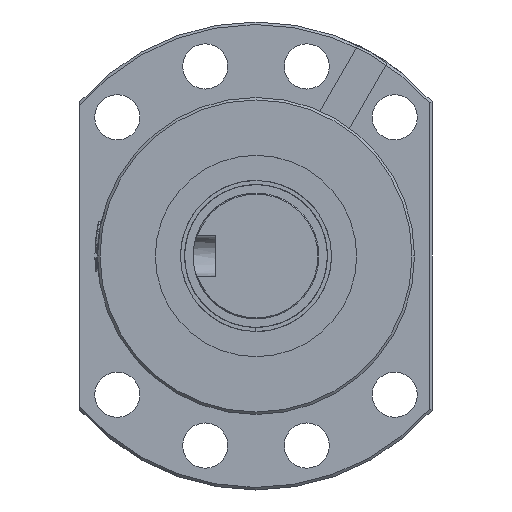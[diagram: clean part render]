
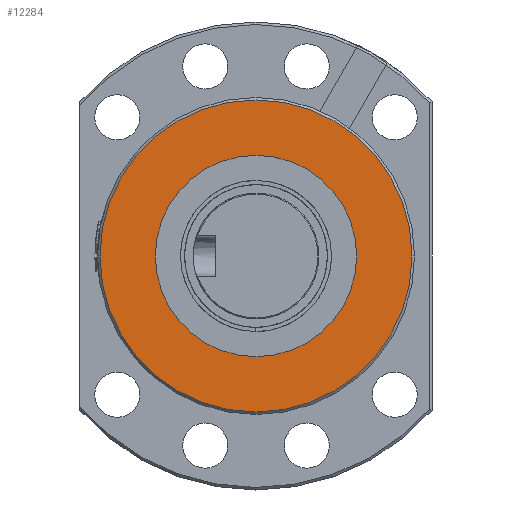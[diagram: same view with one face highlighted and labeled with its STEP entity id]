
A CAD part, left-side view. The second image highlights one B-rep face of the part: STEP entity #12284.
In plain terms, the highlighted planar face has unit normal (-1, 0, 0) as drawn and (1, 0, 0) by its records, which use the part's own axes.
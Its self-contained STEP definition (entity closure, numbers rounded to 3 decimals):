
#1056 = ORIENTED_EDGE ( 'NONE', *, *, #4572, .T. ) ;
#2905 = CIRCLE ( 'NONE', #29359, 20. ) ;
#3261 = ORIENTED_EDGE ( 'NONE', *, *, #27896, .T. ) ;
#3599 = EDGE_CURVE ( 'NONE', #23247, #20291, #30186, .T. ) ;
#4572 = EDGE_CURVE ( 'NONE', #7403, #6596, #9538, .T. ) ;
#4626 = CIRCLE ( 'NONE', #10507, 31. ) ;
#5779 = DIRECTION ( 'NONE',  ( -1., 0., 0. ) ) ;
#5901 = EDGE_LOOP ( 'NONE', ( #25796, #3261 ) ) ;
#6249 = DIRECTION ( 'NONE',  ( 0., 0., 1. ) ) ;
#6334 = AXIS2_PLACEMENT_3D ( 'NONE', #8115, #5779, #15905 ) ;
#6596 = VERTEX_POINT ( 'NONE', #7231 ) ;
#7231 = CARTESIAN_POINT ( 'NONE',  ( -56.764, 42.86, -9.637 ) ) ;
#7403 = VERTEX_POINT ( 'NONE', #21788 ) ;
#8115 = CARTESIAN_POINT ( 'NONE',  ( -56.764, 42.86, 21.363 ) ) ;
#9000 = AXIS2_PLACEMENT_3D ( 'NONE', #9234, #19328, #6249 ) ;
#9234 = CARTESIAN_POINT ( 'NONE',  ( -56.764, 42.86, -10.137 ) ) ;
#9538 = CIRCLE ( 'NONE', #23304, 31. ) ;
#10507 = AXIS2_PLACEMENT_3D ( 'NONE', #15712, #25790, #26122 ) ;
#12284 = ADVANCED_FACE ( 'NONE', ( #31892, #16366 ), #13535, .F. ) ;
#13158 = EDGE_LOOP ( 'NONE', ( #1056, #20196 ) ) ;
#13535 = PLANE ( 'NONE',  #9000 ) ;
#14598 = CARTESIAN_POINT ( 'NONE',  ( -56.764, 42.86, 21.363 ) ) ;
#15712 = CARTESIAN_POINT ( 'NONE',  ( -56.764, 42.86, 21.363 ) ) ;
#15905 = DIRECTION ( 'NONE',  ( 0., 0., 1. ) ) ;
#16366 = FACE_OUTER_BOUND ( 'NONE', #13158, .T. ) ;
#16401 = DIRECTION ( 'NONE',  ( 0., 0., 1. ) ) ;
#19328 = DIRECTION ( 'NONE',  ( -1., 0., 0. ) ) ;
#20196 = ORIENTED_EDGE ( 'NONE', *, *, #22488, .T. ) ;
#20291 = VERTEX_POINT ( 'NONE', #21589 ) ;
#21206 = DIRECTION ( 'NONE',  ( -1., 0., 0. ) ) ;
#21419 = DIRECTION ( 'NONE',  ( 1., 0., 0. ) ) ;
#21589 = CARTESIAN_POINT ( 'NONE',  ( -56.764, 42.86, 1.363 ) ) ;
#21788 = CARTESIAN_POINT ( 'NONE',  ( -56.764, 42.86, 52.363 ) ) ;
#22488 = EDGE_CURVE ( 'NONE', #6596, #7403, #4626, .T. ) ;
#23247 = VERTEX_POINT ( 'NONE', #28419 ) ;
#23304 = AXIS2_PLACEMENT_3D ( 'NONE', #14598, #21419, #29000 ) ;
#25790 = DIRECTION ( 'NONE',  ( 1., 0., 0. ) ) ;
#25796 = ORIENTED_EDGE ( 'NONE', *, *, #3599, .T. ) ;
#26122 = DIRECTION ( 'NONE',  ( 0., 0., 1. ) ) ;
#27896 = EDGE_CURVE ( 'NONE', #20291, #23247, #2905, .T. ) ;
#28419 = CARTESIAN_POINT ( 'NONE',  ( -56.764, 42.86, 41.363 ) ) ;
#29000 = DIRECTION ( 'NONE',  ( 0., 0., 1. ) ) ;
#29282 = CARTESIAN_POINT ( 'NONE',  ( -56.764, 42.86, 21.363 ) ) ;
#29359 = AXIS2_PLACEMENT_3D ( 'NONE', #29282, #21206, #16401 ) ;
#30186 = CIRCLE ( 'NONE', #6334, 20. ) ;
#31892 = FACE_BOUND ( 'NONE', #5901, .T. ) ;
